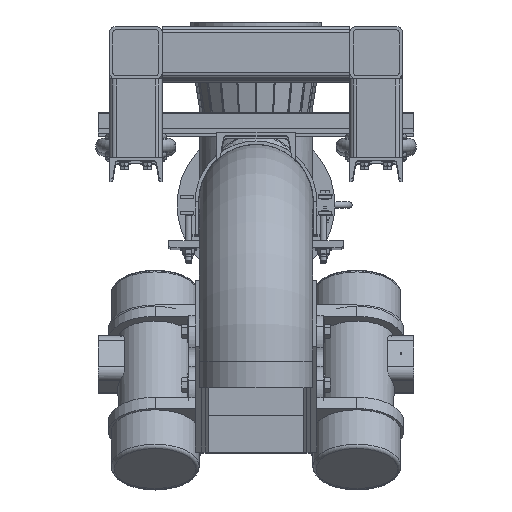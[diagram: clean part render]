
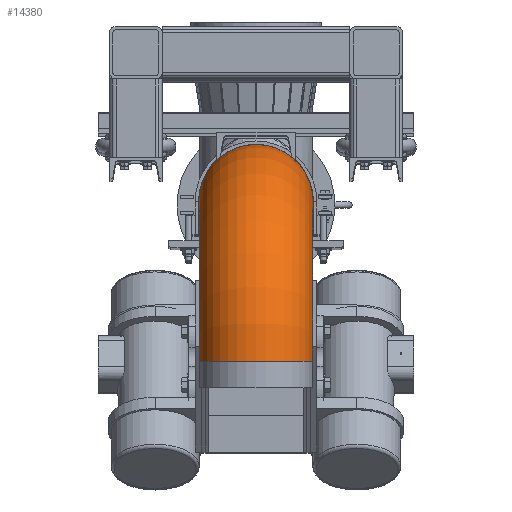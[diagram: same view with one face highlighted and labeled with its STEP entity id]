
A CAD part, top view. The second image highlights one B-rep face of the part: STEP entity #14380.
In plain terms, the highlighted toroidal (fillet/blend) face has major radius 309.562 mm and minor radius 109.537 mm.
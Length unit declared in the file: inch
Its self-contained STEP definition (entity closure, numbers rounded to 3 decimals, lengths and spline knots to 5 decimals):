
#216=TOROIDAL_SURFACE('',#16719,12.1875,4.3125);
#2626=FACE_OUTER_BOUND('',#3502,.T.);
#3502=EDGE_LOOP('',(#11846,#11847,#11848,#11849,#11850,#11851));
#6247=CIRCLE('',#16720,4.3125);
#6248=CIRCLE('',#16721,4.3125);
#6249=CIRCLE('',#16722,7.875);
#6250=CIRCLE('',#16723,4.3125);
#6251=CIRCLE('',#16724,4.3125);
#7286=VERTEX_POINT('',#28615);
#7287=VERTEX_POINT('',#28616);
#7288=VERTEX_POINT('',#28619);
#7289=VERTEX_POINT('',#28621);
#8908=EDGE_CURVE('',#7286,#7287,#6247,.T.);
#8909=EDGE_CURVE('',#7287,#7286,#6248,.T.);
#8910=EDGE_CURVE('',#7287,#7288,#6249,.T.);
#8911=EDGE_CURVE('',#7289,#7288,#6250,.T.);
#8912=EDGE_CURVE('',#7288,#7289,#6251,.T.);
#11846=ORIENTED_EDGE('',*,*,#8908,.F.);
#11847=ORIENTED_EDGE('',*,*,#8909,.F.);
#11848=ORIENTED_EDGE('',*,*,#8910,.T.);
#11849=ORIENTED_EDGE('',*,*,#8911,.F.);
#11850=ORIENTED_EDGE('',*,*,#8912,.F.);
#11851=ORIENTED_EDGE('',*,*,#8910,.F.);
#14380=ADVANCED_FACE('',(#2626),#216,.T.);
#16719=AXIS2_PLACEMENT_3D('',#28614,#19919,#19920);
#16720=AXIS2_PLACEMENT_3D('',#28617,#19921,#19922);
#16721=AXIS2_PLACEMENT_3D('',#28618,#19923,#19924);
#16722=AXIS2_PLACEMENT_3D('',#28620,#19925,#19926);
#16723=AXIS2_PLACEMENT_3D('',#28622,#19927,#19928);
#16724=AXIS2_PLACEMENT_3D('',#28623,#19929,#19930);
#19919=DIRECTION('center_axis',(0.,-1.,0.));
#19920=DIRECTION('ref_axis',(0.,0.,-1.));
#19921=DIRECTION('center_axis',(-1.,0.,0.));
#19922=DIRECTION('ref_axis',(0.,0.,-1.));
#19923=DIRECTION('center_axis',(-1.,0.,0.));
#19924=DIRECTION('ref_axis',(0.,0.,-1.));
#19925=DIRECTION('center_axis',(0.,1.,0.));
#19926=DIRECTION('ref_axis',(0.,0.,-1.));
#19927=DIRECTION('center_axis',(0.,0.,-1.));
#19928=DIRECTION('ref_axis',(-1.,0.,0.));
#19929=DIRECTION('center_axis',(0.,0.,-1.));
#19930=DIRECTION('ref_axis',(-1.,0.,0.));
#28614=CARTESIAN_POINT('Origin',(-12.1875,0.,0.));
#28615=CARTESIAN_POINT('',(-12.1875,0.,16.5));
#28616=CARTESIAN_POINT('',(-12.1875,0.,7.875));
#28617=CARTESIAN_POINT('Origin',(-12.1875,0.,12.1875));
#28618=CARTESIAN_POINT('Origin',(-12.1875,0.,12.1875));
#28619=CARTESIAN_POINT('',(-4.3125,0.,0.));
#28620=CARTESIAN_POINT('Origin',(-12.1875,0.,0.));
#28621=CARTESIAN_POINT('',(4.3125,0.,0.));
#28622=CARTESIAN_POINT('Origin',(0.,0.,0.));
#28623=CARTESIAN_POINT('Origin',(0.,0.,0.));
